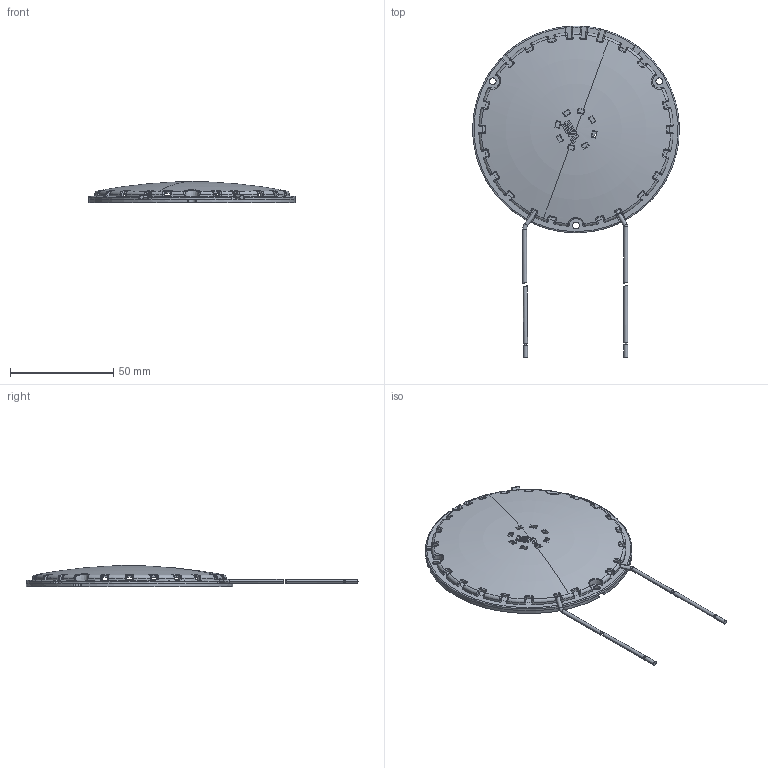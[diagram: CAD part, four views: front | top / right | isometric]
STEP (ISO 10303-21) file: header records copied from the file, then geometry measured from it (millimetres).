
FILE_DESCRIPTION(('Creo Elements/Direct Modeling STEP Export'),'2;1');
FILE_NAME('READYLINE_C10_17W_side_cable_exit.stp','2020-04-20T14:41:02',(''),(''),'Creo Elements/Direct Modeling STEP processor for AP214 (Solid Model)','Creo Elements/Direct Modeling 20.0E 23-Apr-2019 (C) Parametric Technology GmbH','');
FILE_SCHEMA(('AUTOMOTIVE_DESIGN { 1 0 10303 214 1 1 1 1 }'));
Length unit declared in the file: millimetre
Products named in the file (7): cavo.2.2.1; cavo.2.2; cavo.2.1; cavo.2.1.1; cabl_QDM; engine; READYLINE_C10_side_cable_exit
Assembly tree (6 placements, depth 3):
  READYLINE_C10_side_cable_exit
    engine
    cabl_QDM
      cavo.2.1.1
      cavo.2.1
      cavo.2.2
      cavo.2.2.1
Bounding box: 99.98 x 160.59 x 10.34 mm (x, y, z)
Volume: 25242.2 mm3; surface area: 32085.4 mm2
Topology: 5 solids, 5 shells, 827 faces, 2245 edges, 1378 vertices
Faces by surface type: bspline 367, cylinder 185, plane 141, torus 79, cone 45, sphere 10
Entity records: 56808 total; most frequent: CARTESIAN_POINT 39874, ORIENTED_EDGE 4460, EDGE_CURVE 2230, DIRECTION 2119, VERTEX_POINT 1378, B_SPLINE_CURVE_WITH_KNOTS 1117, AXIS2_PLACEMENT_3D 906, EDGE_LOOP 858
